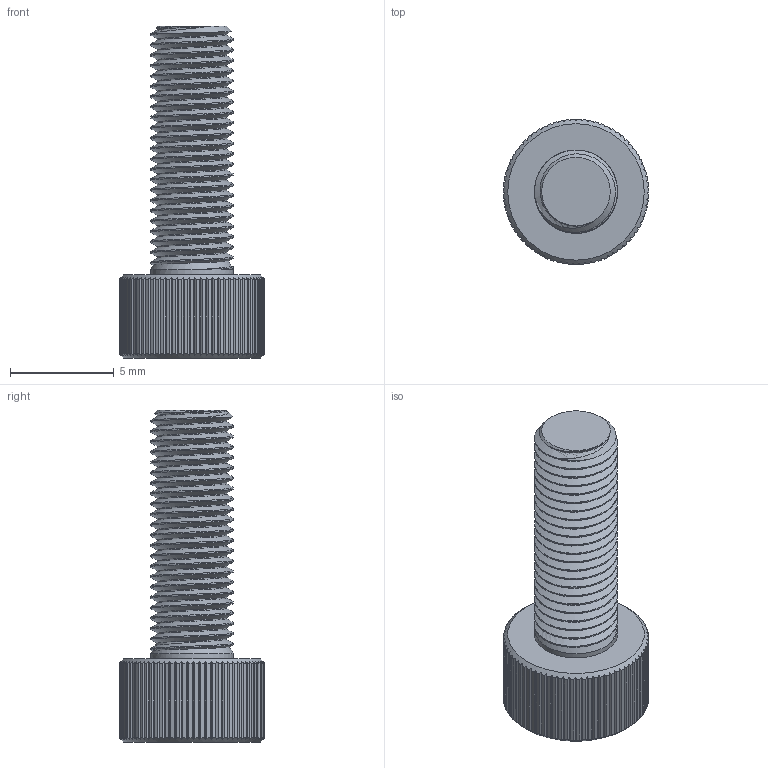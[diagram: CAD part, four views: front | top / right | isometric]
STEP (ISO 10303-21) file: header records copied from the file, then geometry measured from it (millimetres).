
FILE_DESCRIPTION(/* description */ ('STEP AP242 Edition 2','CAx-IF Rec.Pracs.---Representation and Presentation of Product Manufacturing Information (PMI)---4.0---2014-10-13','CAx-IF Rec.Pracs.---3D Tessellated Geometry---0.4---2014-09-14','2;1','CAx-IF Rec.Pracs.---User Defined Attributes---1.5---2016-08-15'),/* implementation_level */ '2;1');
FILE_NAME(/* name */ 'Main - M4 12mm (4)',/* time_stamp */ '2026-09-13T15:49:58Z',/* author */ (''),/* organization */ (''),/* preprocessor_version */ 'ST-DEVELOPER v20',/* originating_system */ 'ONSHAPE BY PTC INC, 1.220',/* authorisation */ ' ');
FILE_SCHEMA (('AP242_MANAGED_MODEL_BASED_3D_ENGINEERING_MIM_LF { 1 0 10303 442 3 1 4 }'));
Length unit declared in the file: metre
Products named in the file (1): M4 12mm
Bounding box: 7 x 7 x 16 mm (x, y, z)
Volume: 262.5 mm3; surface area: 431.1 mm2
Topology: 1 solids, 1 shells, 271 faces, 788 edges, 521 vertices
Faces by surface type: plane 160, cylinder 98, cone 10, bspline 3
Full cylindrical faces by diameter (mm): 4 x22
Entity records: 11547 total; most frequent: CARTESIAN_POINT 4578, DIRECTION 1655, ORIENTED_EDGE 1430, EDGE_CURVE 715, AXIS2_PLACEMENT_3D 709, VERTEX_POINT 474, CIRCLE 462, EDGE_LOOP 255
